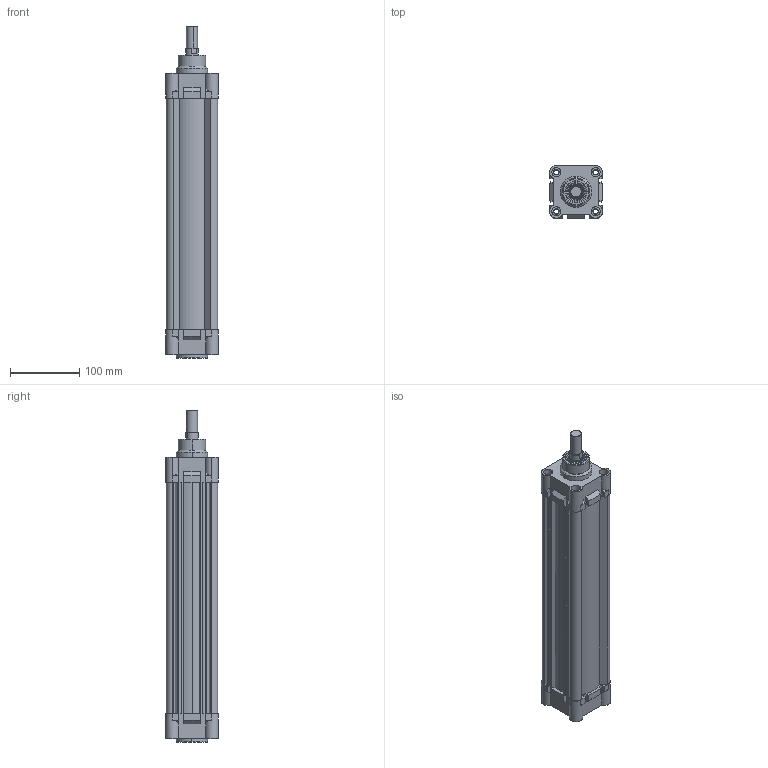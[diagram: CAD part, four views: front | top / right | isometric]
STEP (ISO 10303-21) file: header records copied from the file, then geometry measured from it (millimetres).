
FILE_DESCRIPTION (( 'STEP AP214' ), '1' );
FILE_NAME ('RIC_63_300_WEB.STEP', '2020-07-18T16:34:38', ( '' ), ( '' ), 'SwSTEP 2.0', 'SolidWorks 2018', '' );
FILE_SCHEMA (( 'AUTOMOTIVE_DESIGN' ));
Length unit declared in the file: millimetre
Products named in the file (7): 20_K_MIL_WEB; 63_BORU_WEB; ric63onkapak; ric63yastikkecesi; ric63bogazkecesi; ric63arkakapak; RIC_63_300_WEB
Assembly tree (7 placements, depth 2):
  RIC_63_300_WEB
    63_BORU_WEB
    ric63onkapak
    ric63arkakapak
    ric63bogazkecesi
    ric63yastikkecesi  x2
    20_K_MIL_WEB
Bounding box: 76 x 76 x 478 mm (x, y, z)
Volume: 900150.2 mm3; surface area: 308984.3 mm2
Topology: 7 solids, 7 shells, 709 faces, 1751 edges, 1102 vertices
Faces by surface type: plane 280, cylinder 220, torus 134, cone 56, bspline 19
Entity records: 21075 total; most frequent: CARTESIAN_POINT 4906, DIRECTION 3090, ORIENTED_EDGE 2910, EDGE_CURVE 1455, AXIS2_PLACEMENT_3D 1135, VERTEX_POINT 925, LINE 820, VECTOR 820
